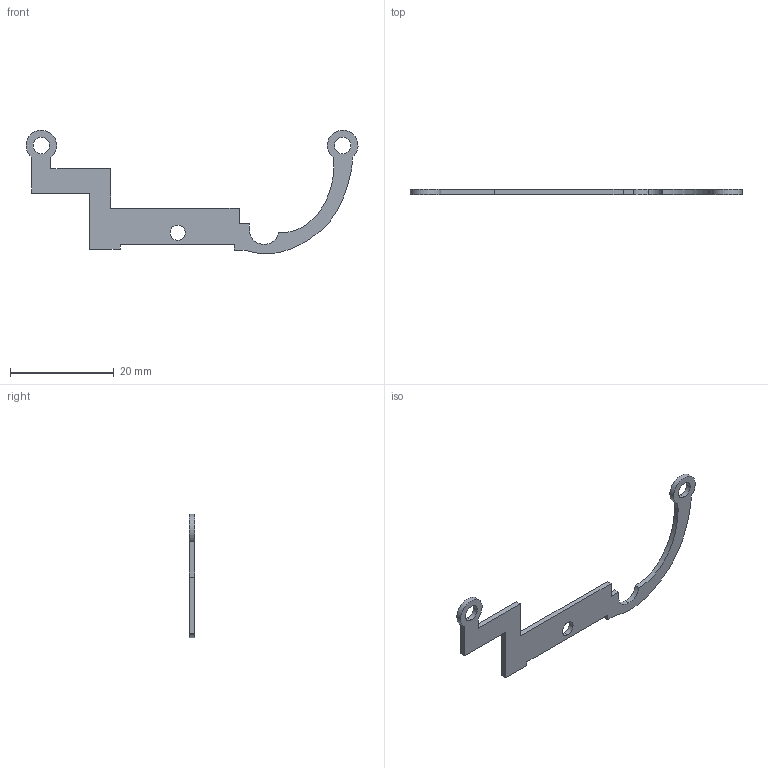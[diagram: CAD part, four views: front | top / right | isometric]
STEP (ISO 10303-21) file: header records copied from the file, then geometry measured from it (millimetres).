
FILE_DESCRIPTION (( 'STEP AP214' ), '1' );
FILE_NAME ('geeekpi 1.STEP', '2022-01-16T09:03:43', ( '' ), ( '' ), 'SwSTEP 2.0', 'SolidWorks 2021', '' );
FILE_SCHEMA (( 'AUTOMOTIVE_DESIGN' ));
Length unit declared in the file: millimetre
Products named in the file (1): geeekpi 1
Bounding box: 63.89 x 1 x 23.76 mm (x, y, z)
Volume: 418.1 mm3; surface area: 1067 mm2
Topology: 1 solids, 1 shells, 29 faces, 81 edges, 54 vertices
Faces by surface type: plane 17, cylinder 10, bspline 2
Entity records: 1005 total; most frequent: CARTESIAN_POINT 203, ORIENTED_EDGE 162, DIRECTION 153, EDGE_CURVE 81, VECTOR 57, LINE 57, VERTEX_POINT 54, AXIS2_PLACEMENT_3D 48
